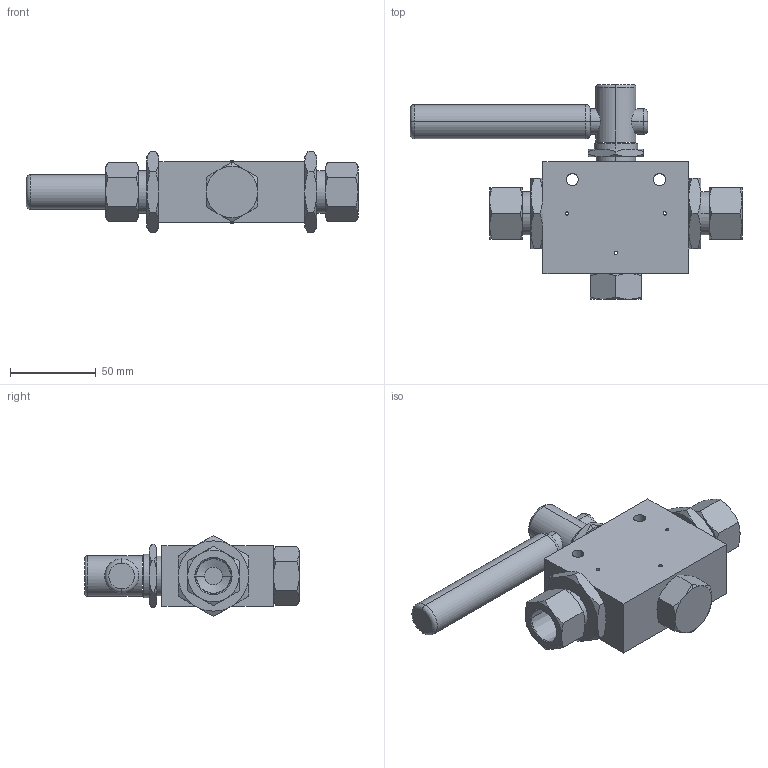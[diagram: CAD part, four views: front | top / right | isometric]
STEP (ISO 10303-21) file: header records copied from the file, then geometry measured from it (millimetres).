
FILE_DESCRIPTION (( 'STEP AP203' ), '1' );
FILE_NAME ('BVP05S08-2-90.STEP', '2022-04-12T10:52:41', ( '' ), ( '' ), 'SwSTEP 2.0', 'SolidWorks 2020', '' );
FILE_SCHEMA (( 'CONFIG_CONTROL_DESIGN' ));
Length unit declared in the file: millimetre
Products named in the file (1): BVP05S08-2-90
Bounding box: 193.5 x 125 x 47.34 mm (x, y, z)
Volume: 297683.9 mm3; surface area: 48730.3 mm2
Topology: 1 solids, 1 shells, 198 faces, 442 edges, 260 vertices
Faces by surface type: cone 90, plane 64, cylinder 36, torus 8
Entity records: 6371 total; most frequent: CARTESIAN_POINT 2057, ORIENTED_EDGE 884, DIRECTION 868, EDGE_CURVE 442, AXIS2_PLACEMENT_3D 379, VERTEX_POINT 260, EDGE_LOOP 226, FACE_OUTER_BOUND 198
